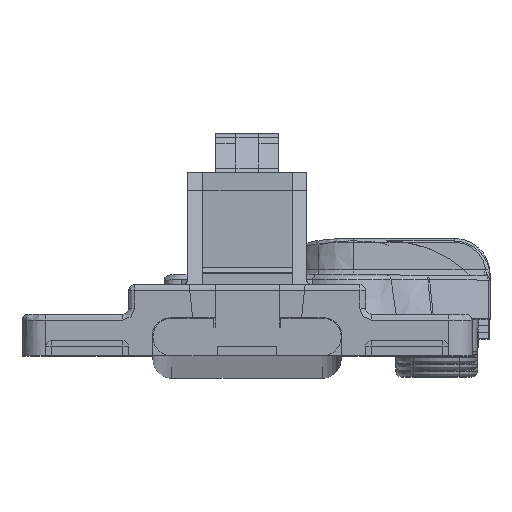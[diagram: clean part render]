
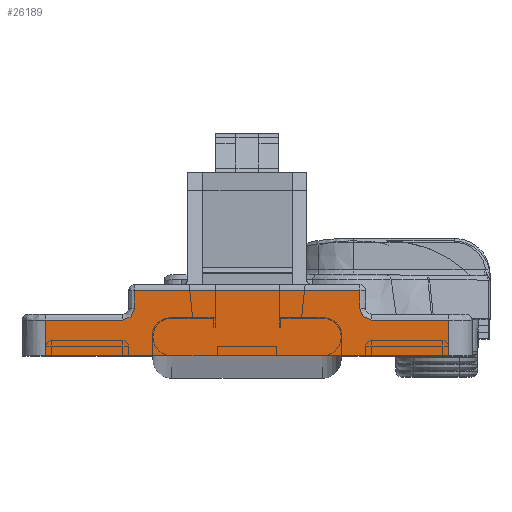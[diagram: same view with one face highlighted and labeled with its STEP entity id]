
A CAD part, top view. The second image highlights one B-rep face of the part: STEP entity #26189.
In plain terms, the highlighted planar face has unit normal (0, 0, 1).
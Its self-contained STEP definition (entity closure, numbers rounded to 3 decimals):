
#3860=FACE_OUTER_BOUND('',#5325,.T.);
#5325=EDGE_LOOP('',(#23746,#23747,#23748,#23749,#23750,#23751,#23752,#23753,
#23754,#23755));
#6164=B_SPLINE_CURVE_WITH_KNOTS('',5,(#57258,#57259,#57260,#57261,#57262,
#57263),.UNSPECIFIED.,.F.,.F.,(6,6),(0.,1.),
 .UNSPECIFIED.);
#6168=B_SPLINE_CURVE_WITH_KNOTS('',5,(#57423,#57424,#57425,#57426,#57427,
#57428),.UNSPECIFIED.,.F.,.F.,(6,6),(0.,1.),
 .UNSPECIFIED.);
#7948=LINE('',#57192,#9830);
#7955=LINE('',#57267,#9837);
#7959=LINE('',#57413,#9841);
#7960=LINE('',#57415,#9842);
#7961=LINE('',#57416,#9843);
#7962=LINE('',#57418,#9844);
#7963=LINE('',#57420,#9845);
#7964=LINE('',#57422,#9846);
#9830=VECTOR('',#33920,3.);
#9837=VECTOR('',#33947,6.5);
#9841=VECTOR('',#33967,6.5);
#9842=VECTOR('',#33968,3.);
#9843=VECTOR('',#33969,34.);
#9844=VECTOR('',#33970,1.5);
#9845=VECTOR('',#33971,19.);
#9846=VECTOR('',#33972,1.5);
#12996=VERTEX_POINT('',#57184);
#12997=VERTEX_POINT('',#57191);
#13006=VERTEX_POINT('',#57256);
#13007=VERTEX_POINT('',#57257);
#13014=VERTEX_POINT('',#57411);
#13015=VERTEX_POINT('',#57412);
#13016=VERTEX_POINT('',#57414);
#13017=VERTEX_POINT('',#57417);
#13018=VERTEX_POINT('',#57419);
#13019=VERTEX_POINT('',#57421);
#16631=EDGE_CURVE('',#12996,#12997,#7948,.T.);
#16643=EDGE_CURVE('',#13006,#13007,#6164,.T.);
#16646=EDGE_CURVE('',#12996,#13006,#7955,.T.);
#16659=EDGE_CURVE('',#13014,#13015,#7959,.T.);
#16660=EDGE_CURVE('',#13016,#13015,#7960,.T.);
#16661=EDGE_CURVE('',#12997,#13016,#7961,.T.);
#16662=EDGE_CURVE('',#13007,#13017,#7962,.T.);
#16663=EDGE_CURVE('',#13018,#13017,#7963,.T.);
#16664=EDGE_CURVE('',#13018,#13019,#7964,.T.);
#16665=EDGE_CURVE('',#13019,#13014,#6168,.T.);
#23746=ORIENTED_EDGE('',*,*,#16659,.T.);
#23747=ORIENTED_EDGE('',*,*,#16660,.F.);
#23748=ORIENTED_EDGE('',*,*,#16661,.F.);
#23749=ORIENTED_EDGE('',*,*,#16631,.F.);
#23750=ORIENTED_EDGE('',*,*,#16646,.T.);
#23751=ORIENTED_EDGE('',*,*,#16643,.T.);
#23752=ORIENTED_EDGE('',*,*,#16662,.T.);
#23753=ORIENTED_EDGE('',*,*,#16663,.F.);
#23754=ORIENTED_EDGE('',*,*,#16664,.T.);
#23755=ORIENTED_EDGE('',*,*,#16665,.T.);
#24841=PLANE('',#28212);
#26189=ADVANCED_FACE('',(#3860),#24841,.F.);
#28212=AXIS2_PLACEMENT_3D('',#57410,#33965,#33966);
#33920=DIRECTION('',(0.,-1.,0.));
#33947=DIRECTION('',(-1.,0.,0.));
#33965=DIRECTION('center_axis',(0.,0.,
-1.));
#33966=DIRECTION('ref_axis',(0.,-1.,0.));
#33967=DIRECTION('',(-1.,0.,0.));
#33968=DIRECTION('',(0.,1.,0.));
#33969=DIRECTION('',(-1.,0.,0.));
#33970=DIRECTION('',(0.,1.,0.));
#33971=DIRECTION('',(1.,0.,0.));
#33972=DIRECTION('',(0.,-1.,0.));
#57184=CARTESIAN_POINT('',(4.457,25.367,497.5));
#57191=CARTESIAN_POINT('',(4.457,22.367,497.5));
#57192=CARTESIAN_POINT('',(4.457,25.367,497.5));
#57256=CARTESIAN_POINT('',(-2.043,25.367,497.5));
#57257=CARTESIAN_POINT('',(-3.043,26.367,497.5));
#57258=CARTESIAN_POINT('Ctrl Pts',(-2.043,25.367,497.5));
#57259=CARTESIAN_POINT('Ctrl Pts',(-2.357,25.367,497.5));
#57260=CARTESIAN_POINT('Ctrl Pts',(-2.672,25.49,497.5));
#57261=CARTESIAN_POINT('Ctrl Pts',(-2.92,25.738,497.5));
#57262=CARTESIAN_POINT('Ctrl Pts',(-3.043,26.053,497.5));
#57263=CARTESIAN_POINT('Ctrl Pts',(-3.043,26.367,497.5));
#57267=CARTESIAN_POINT('',(4.457,25.367,497.5));
#57410=CARTESIAN_POINT('Origin',(-12.543,22.367,497.5));
#57411=CARTESIAN_POINT('',(-23.043,25.367,497.5));
#57412=CARTESIAN_POINT('',(-29.543,25.367,497.5));
#57413=CARTESIAN_POINT('',(-23.043,25.367,497.5));
#57414=CARTESIAN_POINT('',(-29.543,22.367,497.5));
#57415=CARTESIAN_POINT('',(-29.543,22.367,497.5));
#57416=CARTESIAN_POINT('',(4.457,22.367,497.5));
#57417=CARTESIAN_POINT('',(-3.043,27.867,497.5));
#57418=CARTESIAN_POINT('',(-3.043,26.367,497.5));
#57419=CARTESIAN_POINT('',(-22.043,27.867,497.5));
#57420=CARTESIAN_POINT('',(-22.043,27.867,497.5));
#57421=CARTESIAN_POINT('',(-22.043,26.367,497.5));
#57422=CARTESIAN_POINT('',(-22.043,27.867,497.5));
#57423=CARTESIAN_POINT('Ctrl Pts',(-22.043,26.367,497.5));
#57424=CARTESIAN_POINT('Ctrl Pts',(-22.043,26.053,497.5));
#57425=CARTESIAN_POINT('Ctrl Pts',(-22.166,25.738,497.5));
#57426=CARTESIAN_POINT('Ctrl Pts',(-22.415,25.49,497.5));
#57427=CARTESIAN_POINT('Ctrl Pts',(-22.729,25.367,497.5));
#57428=CARTESIAN_POINT('Ctrl Pts',(-23.043,25.367,497.5));
